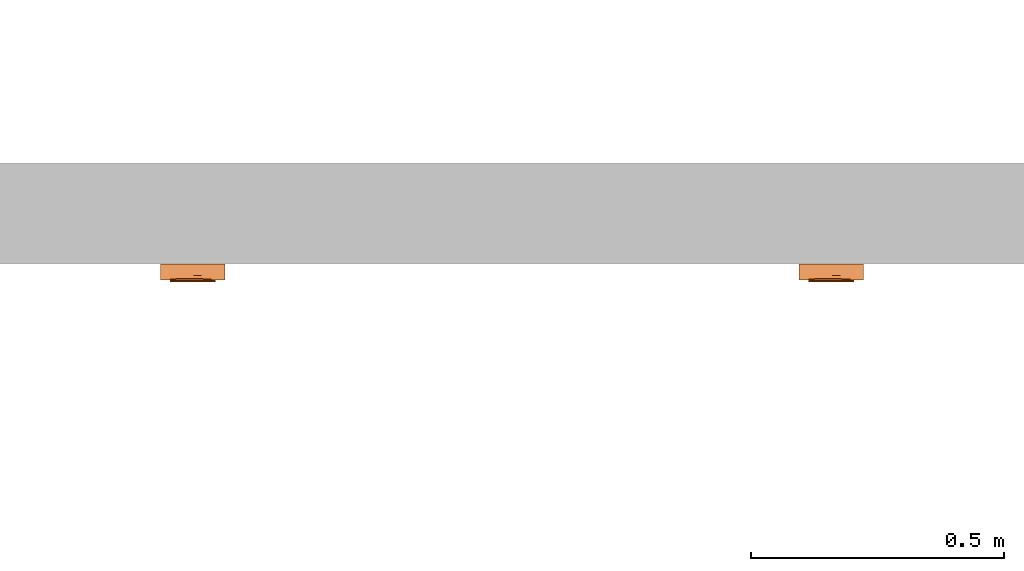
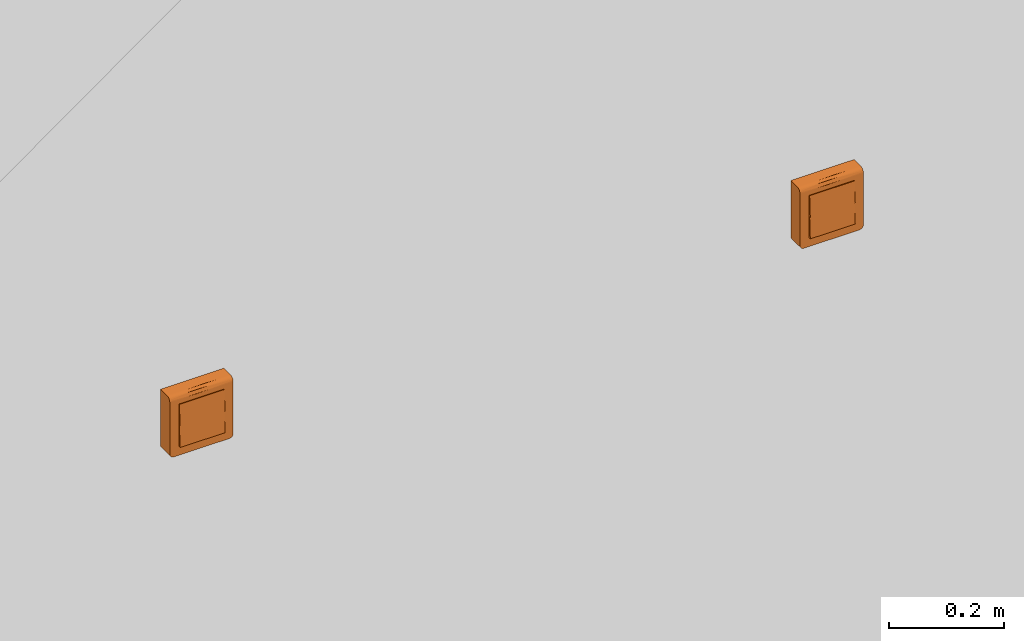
# One storey, part 165 of 197: 2 proxies.
"""IFC2X3 building model written with IfcOpenShell, lengths in metres."""

from ifc_helpers import new_model, entity, si_unit, converted_unit, direction, frame, origin, place, context, subcontext, project, spatial, faceted_brep, source, transform, mapped, material, material_list, type_object, type_shapes, element, save


model = new_model("IFC2X3")

# Units and contexts
model_context = context("Model", 3, precision=1e-05, world=origin(), true_north=direction((6.123031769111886e-17, 1.0)))
body_context = subcontext(model_context, "Body", "Model", "MODEL_VIEW")
ifc_project = project(units=[si_unit("LENGTHUNIT", "METRE"), converted_unit("PLANEANGLEUNIT", "DEGREE", entity("IfcPlaneAngleMeasure", 0.017453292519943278), si_unit("PLANEANGLEUNIT", "RADIAN"), dimensions=[0, 0, 0, 0, 0, 0, 0]), si_unit("AREAUNIT", "SQUARE_METRE")], contexts=[model_context])

# Site, building, storey
site_placement = place(None, origin())
site = spatial("IfcSite", under=ifc_project, at=site_placement, Name="Default", CompositionType="ELEMENT")
building_placement = place(site_placement, origin())
building = spatial("IfcBuilding", under=site, at=building_placement, CompositionType="ELEMENT")
storey_placement = place(building_placement, origin())
storey = spatial("IfcBuildingStorey", under=building, at=storey_placement, Name="Niveau 0", CompositionType="ELEMENT", Elevation=0.0)

# Proxies
ifc_material_1 = material(Name="BETCE-CADRE-BLANC")
ifc_material_2 = material(Name="BETCE-DOIGT-BLANC")
ifc_material_3 = material(Name="BETCE-ENJOLIVEUR-BLANC")
ifc_material_list = material_list([ifc_material_1, ifc_material_2, ifc_material_3])
building_element_proxy_type_1 = type_object("IfcBuildingElementProxyType", Name="Tableau commande 2x4 modules saillie:7 BP + 1 SA", PredefinedType="NOTDEFINED", material=ifc_material_list)
shared_shape_1 = source(origin(), body_context, "Body", "Brep", [
    faceted_brep([(0.06349999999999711, -0.022999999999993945, 0.0635), (-0.06350000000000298, -0.022999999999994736, 0.0635), (-0.06350000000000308, -0.022999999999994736, -0.055499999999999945), (-0.06322740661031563, -0.022999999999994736, -0.05757055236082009), (-0.06242820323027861, -0.02299999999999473, -0.059499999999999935), (-0.06115685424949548, -0.022999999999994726, -0.06115685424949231), (-0.05950000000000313, -0.022999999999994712, -0.06242820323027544), (-0.05757055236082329, -0.0229999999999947, -0.06322740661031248), (-0.05550000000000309, -0.022999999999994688, -0.06350000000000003), (0.055499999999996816, -0.022999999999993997, -0.0635000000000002), (0.057570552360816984, -0.022999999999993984, -0.06322740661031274), (0.05949999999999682, -0.022999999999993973, -0.062428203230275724), (0.06115685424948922, -0.022999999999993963, -0.061156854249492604), (0.062428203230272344, -0.022999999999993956, -0.05950000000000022), (0.0632274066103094, -0.022999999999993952, -0.0575705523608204), (0.06349999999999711, -0.022999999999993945, -0.05550000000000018), (-0.05550000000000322, 0.0, -0.06349999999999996), (-0.05757055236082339, 0.0, -0.06322740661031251), (-0.05950000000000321, 0.0, -0.062428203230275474), (-0.06115685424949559, 0.0, -0.06115685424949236), (-0.06242820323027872, 0.0, -0.05949999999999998), (-0.06322740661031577, 0.0, -0.05757055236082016), (-0.06350000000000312, 0.0, -0.055499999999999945), (-0.06350000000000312, 0.0, 0.0635), (0.06349999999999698, 0.0, 0.0635), (0.06349999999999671, 0.0, -0.05550000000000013), (0.06322740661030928, 0.0, -0.0575705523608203), (0.06242820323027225, 0.0, -0.05950000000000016), (0.06115685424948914, 0.0, -0.061156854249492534), (0.059499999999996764, 0.0, -0.062428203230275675), (0.05757055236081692, 0.0, -0.06322740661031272), (0.055499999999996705, 0.0, -0.0635)], [[[0, 1, 2, 3, 4, 5, 6, 7, 8, 9, 10, 11, 12, 13, 14, 15]], [[16, 17, 18, 19, 20, 21, 22, 23, 24, 25, 26, 27, 28, 29, 30, 31]], [[2, 1, 23, 22]], [[9, 8, 16, 31]], [[0, 15, 25, 24]], [[1, 0, 24, 23]], [[25, 15, 14, 26]], [[26, 14, 13, 27]], [[27, 13, 12, 28]], [[29, 11, 10, 30]], [[30, 10, 9, 31]], [[28, 12, 11, 29]], [[17, 16, 8, 7]], [[18, 17, 7, 6]], [[19, 18, 6, 5]], [[20, 19, 5, 4]], [[21, 20, 4, 3]], [[22, 21, 3, 2]]]),
    faceted_brep([(0.022499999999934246, -0.022999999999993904, -0.045000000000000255), (0.022499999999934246, -0.022999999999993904, 0.0), (0.04499999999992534, -0.022999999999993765, 0.0), (0.04499999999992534, -0.022999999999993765, -0.045000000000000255), (0.022499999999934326, -0.03574999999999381, -0.045000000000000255), (0.02249999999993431, -0.033499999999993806, 0.0), (0.044999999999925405, -0.03349999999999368, 0.0), (0.04499999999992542, -0.03574999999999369, -0.045000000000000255)], [[[0, 1, 2, 3]], [[1, 0, 4, 5]], [[2, 1, 5, 6]], [[3, 2, 6, 7]], [[0, 3, 7, 4]], [[5, 4, 7, 6]]]),
    faceted_brep([(0.0, -0.022999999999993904, -0.04500000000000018), (0.0, -0.022999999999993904, 0.0), (0.02249999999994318, -0.022999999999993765, 0.0), (0.02249999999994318, -0.022999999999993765, -0.04500000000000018), (0.0, -0.03574999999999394, -0.04500000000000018), (0.0, -0.03349999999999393, 0.0), (0.022499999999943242, -0.033499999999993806, 0.0), (0.02249999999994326, -0.03574999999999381, -0.04500000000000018)], [[[0, 1, 2, 3]], [[1, 0, 4, 5]], [[2, 1, 5, 6]], [[3, 2, 6, 7]], [[0, 3, 7, 4]], [[5, 4, 7, 6]]]),
    faceted_brep([(-0.02250000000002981, -0.022999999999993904, -0.0450000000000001), (-0.02250000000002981, -0.022999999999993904, 0.0), (0.0, -0.022999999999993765, 0.0), (0.0, -0.022999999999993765, -0.0450000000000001), (-0.02250000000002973, -0.03574999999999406, -0.0450000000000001), (-0.022500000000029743, -0.03349999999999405, 0.0), (0.0, -0.033499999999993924, 0.0), (0.0, -0.03574999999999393, -0.0450000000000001)], [[[0, 1, 2, 3]], [[1, 0, 4, 5]], [[2, 1, 5, 6]], [[3, 2, 6, 7]], [[0, 3, 7, 4]], [[5, 4, 7, 6]]]),
    faceted_brep([(-0.04500000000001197, -0.022999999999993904, -0.045000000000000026), (-0.04500000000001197, -0.022999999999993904, 0.0), (-0.022500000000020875, -0.022999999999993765, 0.0), (-0.022500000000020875, -0.022999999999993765, -0.045000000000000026), (-0.04500000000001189, -0.03574999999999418, -0.045000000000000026), (-0.0450000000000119, -0.03349999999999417, 0.0), (-0.02250000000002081, -0.03349999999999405, 0.0), (-0.022500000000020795, -0.03574999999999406, -0.045000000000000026)], [[[0, 1, 2, 3]], [[1, 0, 4, 5]], [[2, 1, 5, 6]], [[3, 2, 6, 7]], [[0, 3, 7, 4]], [[5, 4, 7, 6]]]),
    faceted_brep([(0.02249999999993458, -0.03349999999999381, 0.04499999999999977), (0.022499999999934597, -0.03574999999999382, 0.0), (0.04499999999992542, -0.0357499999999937, 0.0), (0.044999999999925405, -0.03349999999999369, 0.04499999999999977), (0.022499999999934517, -0.022999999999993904, 0.0), (0.022499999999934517, -0.022999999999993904, 0.04499999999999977), (0.04499999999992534, -0.022999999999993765, 0.04499999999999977), (0.04499999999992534, -0.022999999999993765, 0.0)], [[[0, 1, 2, 3]], [[4, 5, 6, 7]], [[5, 4, 1, 0]], [[6, 5, 0, 3]], [[7, 6, 3, 2]], [[4, 7, 2, 1]]]),
    faceted_brep([(0.0, -0.03349999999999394, 0.044999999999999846), (0.0, -0.035749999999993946, 0.0), (0.02249999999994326, -0.03574999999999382, 0.0), (0.022499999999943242, -0.03349999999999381, 0.044999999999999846), (0.0, -0.022999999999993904, 0.0), (0.0, -0.022999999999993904, 0.044999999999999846), (0.02249999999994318, -0.022999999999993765, 0.04499999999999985), (0.02249999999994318, -0.022999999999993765, 0.0)], [[[0, 1, 2, 3]], [[4, 5, 6, 7]], [[5, 4, 1, 0]], [[6, 5, 0, 3]], [[7, 6, 3, 2]], [[4, 7, 2, 1]]]),
    faceted_brep([(-0.022500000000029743, -0.03349999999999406, 0.04499999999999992), (-0.02250000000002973, -0.03574999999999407, 0.0), (0.0, -0.03574999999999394, 0.0), (0.0, -0.03349999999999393, 0.04499999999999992), (-0.02250000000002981, -0.022999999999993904, 0.0), (-0.02250000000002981, -0.022999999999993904, 0.04499999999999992), (0.0, -0.022999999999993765, 0.04499999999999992), (0.0, -0.022999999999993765, 0.0)], [[[0, 1, 2, 3]], [[4, 5, 6, 7]], [[5, 4, 1, 0]], [[6, 5, 0, 3]], [[7, 6, 3, 2]], [[4, 7, 2, 1]]]),
    faceted_brep([(-0.04500000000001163, -0.03349999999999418, 0.045), (-0.045000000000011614, -0.03574999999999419, 0.0), (-0.022500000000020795, -0.035749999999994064, 0.0), (-0.02250000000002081, -0.03349999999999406, 0.045), (-0.0450000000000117, -0.022999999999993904, 0.0), (-0.0450000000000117, -0.022999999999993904, 0.045), (-0.022500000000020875, -0.022999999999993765, 0.045000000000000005), (-0.022500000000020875, -0.022999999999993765, 0.0)], [[[0, 1, 2, 3]], [[4, 5, 6, 7]], [[5, 4, 1, 0]], [[6, 5, 0, 3]], [[7, 6, 3, 2]], [[4, 7, 2, 1]]]),
    faceted_brep([(0.06349999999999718, -0.03199999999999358, -0.055500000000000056), (0.063499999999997, -0.03199999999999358, 0.05450000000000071), (0.04499999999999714, -0.03199999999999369, -0.045000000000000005), (0.05549999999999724, -0.03199999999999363, -0.06350000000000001), (0.057570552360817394, -0.03199999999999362, -0.06322740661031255), (0.06322740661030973, -0.03199999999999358, -0.05757055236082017), (0.04499999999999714, -0.03199999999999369, 0.045), (-0.04500000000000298, -0.031999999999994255, 0.045000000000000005), (-0.011124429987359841, -0.03199999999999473, 0.054500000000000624), (-0.06350000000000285, -0.03199999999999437, 0.05450000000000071), (-0.04500000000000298, -0.031999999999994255, -0.045000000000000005), (-0.06350000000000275, -0.03199999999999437, -0.05550000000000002), (-0.05550000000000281, -0.03199999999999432, -0.06350000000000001), (-0.05757055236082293, -0.03199999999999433, -0.06322740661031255), (-0.06322740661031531, -0.031999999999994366, -0.05757055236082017), (-0.05950000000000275, -0.031999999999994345, -0.062428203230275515), (-0.06242820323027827, -0.03199999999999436, -0.05950000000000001), (-0.06115685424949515, -0.03199999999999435, -0.06115685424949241), (0.05949999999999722, -0.0319999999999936, -0.062428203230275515), (0.062428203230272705, -0.03199999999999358, -0.05949999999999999), (0.06115685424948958, -0.031999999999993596, -0.061156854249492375), (-0.06350000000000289, -0.02299999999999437, -0.05550000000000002), (-0.06350000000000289, -0.02299999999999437, 0.06350000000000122), (-0.04500000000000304, -0.02299999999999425, 0.045000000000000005), (-0.04500000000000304, -0.02299999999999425, -0.045000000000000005), (-0.05550000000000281, -0.02299999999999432, -0.06350000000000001), (-0.06322740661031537, -0.022999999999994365, -0.05757055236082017), (0.04499999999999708, -0.022999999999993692, 0.045000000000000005), (0.011124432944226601, -0.022999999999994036, 0.06350000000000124), (0.06349999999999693, -0.022999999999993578, 0.0635), (0.06349999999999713, -0.022999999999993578, -0.05550000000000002), (0.04499999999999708, -0.022999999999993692, -0.045000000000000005), (0.05549999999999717, -0.02299999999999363, -0.06350000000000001), (0.06322740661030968, -0.022999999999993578, -0.05757055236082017), (0.05757055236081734, -0.022999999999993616, -0.06322740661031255), (0.06242820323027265, -0.022999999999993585, -0.05949999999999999), (0.05949999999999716, -0.022999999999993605, -0.062428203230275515), (0.06115685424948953, -0.02299999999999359, -0.061156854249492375), (-0.05757055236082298, -0.02299999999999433, -0.06322740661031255), (-0.062428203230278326, -0.022999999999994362, -0.05950000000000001), (-0.05950000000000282, -0.022999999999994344, -0.062428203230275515), (-0.0611568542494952, -0.02299999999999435, -0.06115685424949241), (0.06349999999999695, -0.025329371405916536, 0.06319333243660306), (0.06349999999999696, -0.02749999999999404, 0.06229422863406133), (0.06349999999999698, -0.029363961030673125, 0.060863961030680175), (0.06349999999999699, -0.03079422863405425, 0.05900000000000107), (0.06349999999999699, -0.03169333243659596, 0.05682937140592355), (-0.06350000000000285, -0.03169333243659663, 0.0568293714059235), (-0.06350000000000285, -0.030794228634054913, 0.059000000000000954), (-0.06350000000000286, -0.029363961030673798, 0.06086396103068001), (-0.06350000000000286, -0.027499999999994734, 0.062294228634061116), (-0.06350000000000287, -0.025329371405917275, 0.06319333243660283), (-0.010857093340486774, -0.029120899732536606, 0.06109807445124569)], [[[0, 1, 2]], [[3, 0, 2]], [[0, 3, 4]], [[5, 0, 4]], [[2, 1, 6]], [[1, 7, 6]], [[7, 1, 8]], [[7, 8, 9]], [[10, 7, 9]], [[11, 10, 9]], [[12, 10, 11]], [[12, 11, 13]], [[13, 11, 14]], [[15, 13, 14]], [[16, 15, 14]], [[15, 16, 17]], [[10, 12, 3]], [[2, 10, 3]], [[5, 4, 18]], [[5, 18, 19]], [[20, 19, 18]], [[21, 22, 23]], [[24, 21, 23]], [[25, 21, 24]], [[26, 21, 25]], [[22, 27, 23]], [[27, 22, 28]], [[27, 28, 29]], [[30, 27, 29]], [[31, 27, 30]], [[32, 31, 30]], [[32, 30, 33]], [[32, 33, 34]], [[33, 35, 34]], [[35, 36, 34]], [[36, 35, 37]], [[31, 32, 25]], [[26, 25, 38]], [[24, 31, 25]], [[39, 26, 38]], [[39, 38, 40]], [[41, 39, 40]], [[1, 0, 30, 29, 42, 43, 44, 45, 46]], [[33, 30, 0, 5]], [[35, 33, 5, 19]], [[37, 35, 19, 20]], [[36, 37, 20, 18]], [[34, 36, 18, 4]], [[32, 34, 4, 3]], [[25, 32, 3, 12]], [[38, 25, 12, 13]], [[40, 38, 13, 15]], [[41, 40, 15, 17]], [[39, 41, 17, 16]], [[26, 39, 16, 14]], [[21, 26, 14, 11]], [[22, 21, 11, 9, 47, 48, 49, 50, 51]], [[24, 23, 7, 10]], [[31, 24, 10, 2]], [[27, 31, 2, 6]], [[23, 27, 6, 7]], [[52, 8, 45]], [[47, 9, 8]], [[1, 46, 8]], [[44, 52, 45]], [[46, 45, 8]], [[50, 52, 51]], [[48, 47, 8]], [[28, 52, 43]], [[48, 52, 49]], [[42, 29, 28]], [[28, 22, 51]], [[48, 8, 52]], [[28, 43, 42]], [[44, 43, 52]], [[52, 50, 49]], [[52, 28, 51]]]),
])
type_shapes(building_element_proxy_type_1, [shared_shape_1])
proxy_1_placement = place(storey_placement, frame((-356.15477966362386, 116.01635778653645, 1.1)))
element("IfcBuildingElementProxy", 1, at=proxy_1_placement, inside=storey, type_object=building_element_proxy_type_1, material=ifc_material_list, Name="Tableau commande 2x4 modules saillie:7 BP + 1 SA", ObjectType="Tableau commande 2x4 modules saillie:7 BP + 1 SA", context=body_context, shape_type="MappedRepresentation", body=[
    mapped(shared_shape_1, transform((0.0, 0.0, 0.0), scale=1.0)),
])
building_element_proxy_type_2 = type_object("IfcBuildingElementProxyType", Name="Tableau commande 2x4 modules saillie:1 BP + 7 VV", PredefinedType="NOTDEFINED", material=ifc_material_list)
shared_shape_2 = source(origin(), body_context, "Body", "Brep", [
    faceted_brep([(0.06349999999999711, -0.022999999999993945, 0.0635), (-0.06350000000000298, -0.022999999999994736, 0.0635), (-0.06350000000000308, -0.022999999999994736, -0.055499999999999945), (-0.06322740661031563, -0.022999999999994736, -0.05757055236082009), (-0.06242820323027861, -0.02299999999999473, -0.059499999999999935), (-0.06115685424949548, -0.022999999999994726, -0.06115685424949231), (-0.05950000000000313, -0.022999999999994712, -0.06242820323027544), (-0.05757055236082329, -0.0229999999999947, -0.06322740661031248), (-0.05550000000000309, -0.022999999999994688, -0.06350000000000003), (0.055499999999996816, -0.022999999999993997, -0.0635000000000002), (0.057570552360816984, -0.022999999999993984, -0.06322740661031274), (0.05949999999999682, -0.022999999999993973, -0.062428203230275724), (0.06115685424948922, -0.022999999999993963, -0.061156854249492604), (0.062428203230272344, -0.022999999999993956, -0.05950000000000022), (0.0632274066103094, -0.022999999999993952, -0.0575705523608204), (0.06349999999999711, -0.022999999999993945, -0.05550000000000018), (-0.05550000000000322, 0.0, -0.06349999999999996), (-0.05757055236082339, 0.0, -0.06322740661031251), (-0.05950000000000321, 0.0, -0.062428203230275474), (-0.06115685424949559, 0.0, -0.06115685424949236), (-0.06242820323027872, 0.0, -0.05949999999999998), (-0.06322740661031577, 0.0, -0.05757055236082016), (-0.06350000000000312, 0.0, -0.055499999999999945), (-0.06350000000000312, 0.0, 0.0635), (0.06349999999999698, 0.0, 0.0635), (0.06349999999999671, 0.0, -0.05550000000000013), (0.06322740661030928, 0.0, -0.0575705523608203), (0.06242820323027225, 0.0, -0.05950000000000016), (0.06115685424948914, 0.0, -0.061156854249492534), (0.059499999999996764, 0.0, -0.062428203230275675), (0.05757055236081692, 0.0, -0.06322740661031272), (0.055499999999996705, 0.0, -0.0635)], [[[0, 1, 2, 3, 4, 5, 6, 7, 8, 9, 10, 11, 12, 13, 14, 15]], [[16, 17, 18, 19, 20, 21, 22, 23, 24, 25, 26, 27, 28, 29, 30, 31]], [[2, 1, 23, 22]], [[9, 8, 16, 31]], [[0, 15, 25, 24]], [[1, 0, 24, 23]], [[25, 15, 14, 26]], [[26, 14, 13, 27]], [[27, 13, 12, 28]], [[29, 11, 10, 30]], [[30, 10, 9, 31]], [[28, 12, 11, 29]], [[17, 16, 8, 7]], [[18, 17, 7, 6]], [[19, 18, 6, 5]], [[20, 19, 5, 4]], [[21, 20, 4, 3]], [[22, 21, 3, 2]]]),
    faceted_brep([(0.022499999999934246, -0.022999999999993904, -0.045000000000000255), (0.022499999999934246, -0.022999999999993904, 0.0), (0.04499999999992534, -0.022999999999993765, 0.0), (0.04499999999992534, -0.022999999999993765, -0.045000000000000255), (0.022499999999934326, -0.03574999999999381, -0.045000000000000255), (0.02249999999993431, -0.033499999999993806, 0.0), (0.044999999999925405, -0.03349999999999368, 0.0), (0.04499999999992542, -0.03574999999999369, -0.045000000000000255)], [[[0, 1, 2, 3]], [[1, 0, 4, 5]], [[2, 1, 5, 6]], [[3, 2, 6, 7]], [[0, 3, 7, 4]], [[5, 4, 7, 6]]]),
    faceted_brep([(0.0, -0.022999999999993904, -0.04500000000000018), (0.0, -0.022999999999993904, 0.0), (0.02249999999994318, -0.022999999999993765, 0.0), (0.02249999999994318, -0.022999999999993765, -0.04500000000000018), (0.0, -0.03574999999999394, -0.04500000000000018), (0.0, -0.03349999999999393, 0.0), (0.022499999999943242, -0.033499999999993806, 0.0), (0.02249999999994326, -0.03574999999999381, -0.04500000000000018)], [[[0, 1, 2, 3]], [[1, 0, 4, 5]], [[2, 1, 5, 6]], [[3, 2, 6, 7]], [[0, 3, 7, 4]], [[5, 4, 7, 6]]]),
    faceted_brep([(-0.02250000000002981, -0.022999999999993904, -0.0450000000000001), (-0.02250000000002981, -0.022999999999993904, 0.0), (0.0, -0.022999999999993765, 0.0), (0.0, -0.022999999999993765, -0.0450000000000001), (-0.02250000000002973, -0.03574999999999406, -0.0450000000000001), (-0.022500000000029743, -0.03349999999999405, 0.0), (0.0, -0.033499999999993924, 0.0), (0.0, -0.03574999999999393, -0.0450000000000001)], [[[0, 1, 2, 3]], [[1, 0, 4, 5]], [[2, 1, 5, 6]], [[3, 2, 6, 7]], [[0, 3, 7, 4]], [[5, 4, 7, 6]]]),
    faceted_brep([(-0.04500000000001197, -0.022999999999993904, -0.045000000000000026), (-0.04500000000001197, -0.022999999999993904, 0.0), (-0.022500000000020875, -0.022999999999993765, 0.0), (-0.022500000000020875, -0.022999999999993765, -0.045000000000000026), (-0.04500000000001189, -0.03574999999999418, -0.045000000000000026), (-0.0450000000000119, -0.03349999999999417, 0.0), (-0.02250000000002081, -0.03349999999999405, 0.0), (-0.022500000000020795, -0.03574999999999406, -0.045000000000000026)], [[[0, 1, 2, 3]], [[1, 0, 4, 5]], [[2, 1, 5, 6]], [[3, 2, 6, 7]], [[0, 3, 7, 4]], [[5, 4, 7, 6]]]),
    faceted_brep([(0.02249999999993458, -0.03349999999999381, 0.04499999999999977), (0.022499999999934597, -0.03574999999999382, 0.0), (0.04499999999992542, -0.0357499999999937, 0.0), (0.044999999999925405, -0.03349999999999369, 0.04499999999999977), (0.022499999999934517, -0.022999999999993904, 0.0), (0.022499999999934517, -0.022999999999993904, 0.04499999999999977), (0.04499999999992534, -0.022999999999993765, 0.04499999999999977), (0.04499999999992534, -0.022999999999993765, 0.0)], [[[0, 1, 2, 3]], [[4, 5, 6, 7]], [[5, 4, 1, 0]], [[6, 5, 0, 3]], [[7, 6, 3, 2]], [[4, 7, 2, 1]]]),
    faceted_brep([(0.0, -0.03349999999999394, 0.044999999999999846), (0.0, -0.035749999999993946, 0.0), (0.02249999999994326, -0.03574999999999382, 0.0), (0.022499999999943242, -0.03349999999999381, 0.044999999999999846), (0.0, -0.022999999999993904, 0.0), (0.0, -0.022999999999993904, 0.044999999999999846), (0.02249999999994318, -0.022999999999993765, 0.04499999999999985), (0.02249999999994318, -0.022999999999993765, 0.0)], [[[0, 1, 2, 3]], [[4, 5, 6, 7]], [[5, 4, 1, 0]], [[6, 5, 0, 3]], [[7, 6, 3, 2]], [[4, 7, 2, 1]]]),
    faceted_brep([(-0.022500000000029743, -0.03349999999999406, 0.04499999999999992), (-0.02250000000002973, -0.03574999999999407, 0.0), (0.0, -0.03574999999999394, 0.0), (0.0, -0.03349999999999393, 0.04499999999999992), (-0.02250000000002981, -0.022999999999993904, 0.0), (-0.02250000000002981, -0.022999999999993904, 0.04499999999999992), (0.0, -0.022999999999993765, 0.04499999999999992), (0.0, -0.022999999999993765, 0.0)], [[[0, 1, 2, 3]], [[4, 5, 6, 7]], [[5, 4, 1, 0]], [[6, 5, 0, 3]], [[7, 6, 3, 2]], [[4, 7, 2, 1]]]),
    faceted_brep([(-0.04500000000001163, -0.03349999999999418, 0.045), (-0.045000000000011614, -0.03574999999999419, 0.0), (-0.022500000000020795, -0.035749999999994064, 0.0), (-0.02250000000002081, -0.03349999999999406, 0.045), (-0.0450000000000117, -0.022999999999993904, 0.0), (-0.0450000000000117, -0.022999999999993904, 0.045), (-0.022500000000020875, -0.022999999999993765, 0.045000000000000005), (-0.022500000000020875, -0.022999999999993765, 0.0)], [[[0, 1, 2, 3]], [[4, 5, 6, 7]], [[5, 4, 1, 0]], [[6, 5, 0, 3]], [[7, 6, 3, 2]], [[4, 7, 2, 1]]]),
    faceted_brep([(0.06349999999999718, -0.03199999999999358, -0.055500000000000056), (0.063499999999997, -0.03199999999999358, 0.05450000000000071), (0.04499999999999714, -0.03199999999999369, -0.045000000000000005), (0.05549999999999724, -0.03199999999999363, -0.06350000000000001), (0.057570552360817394, -0.03199999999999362, -0.06322740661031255), (0.06322740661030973, -0.03199999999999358, -0.05757055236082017), (0.04499999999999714, -0.03199999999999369, 0.045), (-0.04500000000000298, -0.031999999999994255, 0.045000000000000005), (-0.011124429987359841, -0.03199999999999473, 0.054500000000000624), (-0.06350000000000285, -0.03199999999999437, 0.05450000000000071), (-0.04500000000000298, -0.031999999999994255, -0.045000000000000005), (-0.06350000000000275, -0.03199999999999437, -0.05550000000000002), (-0.05550000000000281, -0.03199999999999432, -0.06350000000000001), (-0.05757055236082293, -0.03199999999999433, -0.06322740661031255), (-0.06322740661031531, -0.031999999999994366, -0.05757055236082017), (-0.05950000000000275, -0.031999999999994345, -0.062428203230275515), (-0.06242820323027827, -0.03199999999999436, -0.05950000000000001), (-0.06115685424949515, -0.03199999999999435, -0.06115685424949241), (0.05949999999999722, -0.0319999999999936, -0.062428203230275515), (0.062428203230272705, -0.03199999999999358, -0.05949999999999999), (0.06115685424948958, -0.031999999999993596, -0.061156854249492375), (-0.06350000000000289, -0.02299999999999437, -0.05550000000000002), (-0.06350000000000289, -0.02299999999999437, 0.06350000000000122), (-0.04500000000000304, -0.02299999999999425, 0.045000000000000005), (-0.04500000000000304, -0.02299999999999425, -0.045000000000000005), (-0.05550000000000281, -0.02299999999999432, -0.06350000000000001), (-0.06322740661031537, -0.022999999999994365, -0.05757055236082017), (0.04499999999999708, -0.022999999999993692, 0.045000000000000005), (0.011124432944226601, -0.022999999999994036, 0.06350000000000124), (0.06349999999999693, -0.022999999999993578, 0.0635), (0.06349999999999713, -0.022999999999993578, -0.05550000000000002), (0.04499999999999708, -0.022999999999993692, -0.045000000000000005), (0.05549999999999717, -0.02299999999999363, -0.06350000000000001), (0.06322740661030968, -0.022999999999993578, -0.05757055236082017), (0.05757055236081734, -0.022999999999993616, -0.06322740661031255), (0.06242820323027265, -0.022999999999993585, -0.05949999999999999), (0.05949999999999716, -0.022999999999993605, -0.062428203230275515), (0.06115685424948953, -0.02299999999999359, -0.061156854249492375), (-0.05757055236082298, -0.02299999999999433, -0.06322740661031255), (-0.062428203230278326, -0.022999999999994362, -0.05950000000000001), (-0.05950000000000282, -0.022999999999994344, -0.062428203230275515), (-0.0611568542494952, -0.02299999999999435, -0.06115685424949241), (0.06349999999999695, -0.025329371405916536, 0.06319333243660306), (0.06349999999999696, -0.02749999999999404, 0.06229422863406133), (0.06349999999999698, -0.029363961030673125, 0.060863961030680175), (0.06349999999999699, -0.03079422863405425, 0.05900000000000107), (0.06349999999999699, -0.03169333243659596, 0.05682937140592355), (-0.06350000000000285, -0.03169333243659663, 0.0568293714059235), (-0.06350000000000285, -0.030794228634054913, 0.059000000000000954), (-0.06350000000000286, -0.029363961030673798, 0.06086396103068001), (-0.06350000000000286, -0.027499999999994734, 0.062294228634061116), (-0.06350000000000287, -0.025329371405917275, 0.06319333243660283), (-0.010857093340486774, -0.029120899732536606, 0.06109807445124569)], [[[0, 1, 2]], [[3, 0, 2]], [[0, 3, 4]], [[5, 0, 4]], [[2, 1, 6]], [[1, 7, 6]], [[7, 1, 8]], [[7, 8, 9]], [[10, 7, 9]], [[11, 10, 9]], [[12, 10, 11]], [[12, 11, 13]], [[13, 11, 14]], [[15, 13, 14]], [[16, 15, 14]], [[15, 16, 17]], [[10, 12, 3]], [[2, 10, 3]], [[5, 4, 18]], [[5, 18, 19]], [[20, 19, 18]], [[21, 22, 23]], [[24, 21, 23]], [[25, 21, 24]], [[26, 21, 25]], [[22, 27, 23]], [[27, 22, 28]], [[27, 28, 29]], [[30, 27, 29]], [[31, 27, 30]], [[32, 31, 30]], [[32, 30, 33]], [[32, 33, 34]], [[33, 35, 34]], [[35, 36, 34]], [[36, 35, 37]], [[31, 32, 25]], [[26, 25, 38]], [[24, 31, 25]], [[39, 26, 38]], [[39, 38, 40]], [[41, 39, 40]], [[1, 0, 30, 29, 42, 43, 44, 45, 46]], [[33, 30, 0, 5]], [[35, 33, 5, 19]], [[37, 35, 19, 20]], [[36, 37, 20, 18]], [[34, 36, 18, 4]], [[32, 34, 4, 3]], [[25, 32, 3, 12]], [[38, 25, 12, 13]], [[40, 38, 13, 15]], [[41, 40, 15, 17]], [[39, 41, 17, 16]], [[26, 39, 16, 14]], [[21, 26, 14, 11]], [[22, 21, 11, 9, 47, 48, 49, 50, 51]], [[24, 23, 7, 10]], [[31, 24, 10, 2]], [[27, 31, 2, 6]], [[23, 27, 6, 7]], [[52, 8, 45]], [[47, 9, 8]], [[1, 46, 8]], [[44, 52, 45]], [[46, 45, 8]], [[50, 52, 51]], [[48, 47, 8]], [[28, 52, 43]], [[48, 52, 49]], [[42, 29, 28]], [[28, 22, 51]], [[48, 8, 52]], [[28, 43, 42]], [[44, 43, 52]], [[52, 50, 49]], [[52, 28, 51]]]),
])
type_shapes(building_element_proxy_type_2, [shared_shape_2])
proxy_2_placement = place(storey_placement, frame((-354.89277966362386, 116.01635778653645, 1.1)))
element("IfcBuildingElementProxy", 2, at=proxy_2_placement, inside=storey, type_object=building_element_proxy_type_2, material=ifc_material_list, Name="Tableau commande 2x4 modules saillie:1 BP + 7 VV", ObjectType="Tableau commande 2x4 modules saillie:1 BP + 7 VV", context=body_context, shape_type="MappedRepresentation", body=[
    mapped(shared_shape_2, transform((0.0, 0.0, 0.0), scale=1.0)),
])

save(model, "model.ifc")
